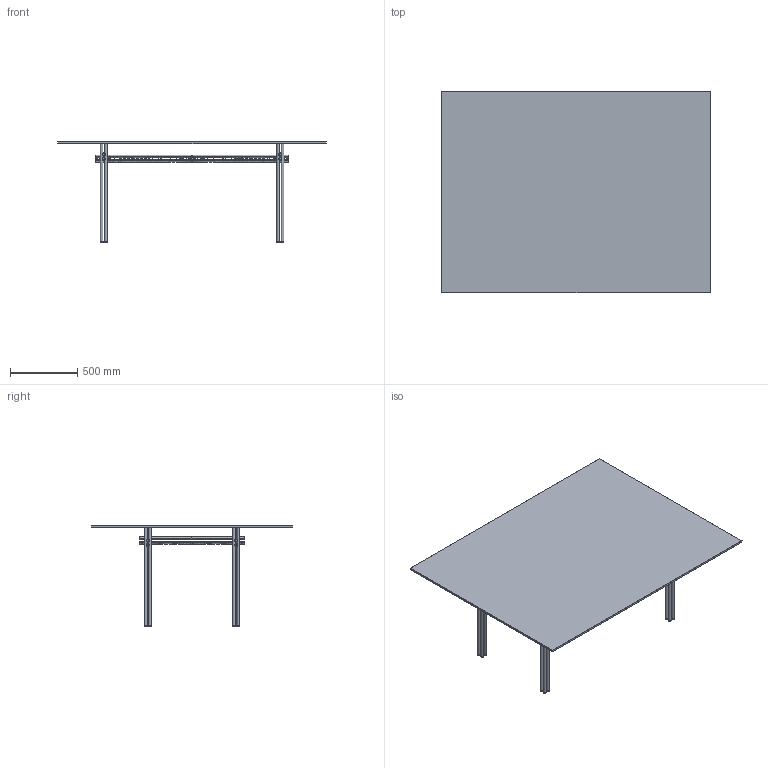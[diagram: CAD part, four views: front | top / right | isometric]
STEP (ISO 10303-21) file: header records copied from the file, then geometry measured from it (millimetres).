
FILE_DESCRIPTION(/* description */ (''),/* implementation_level */ '2;1');
FILE_NAME(/* name */ 'CRISTA~1',/* time_stamp */ '2022-10-18T17:56:38+02:00',/* author */ (''),/* organization */ (''),/* preprocessor_version */ 'ST-DEVELOPER v16.5',/* originating_system */ '',/* authorisation */ '');
FILE_SCHEMA (('AUTOMOTIVE_DESIGN'));
Products named in the file (1): Document
Bounding box: 2000 x 1499.84 x 749.51 mm (x, y, z)
Volume: 48142798.3 mm3; surface area: 8651893.8 mm2
Topology: 63 solids, 63 shells, 482 faces, 14523 edges, 14147 vertices
Faces by surface type: bspline 336, plane 146
Entity records: 324865 total; most frequent: CARTESIAN_POINT 236687, B_SPLINE_CURVE_WITH_KNOTS 14007, COLOUR_RGB 13516, PRESENTATION_STYLE_ASSIGNMENT 13516, STYLED_ITEM 13516, PRESENTATION_LAYER_ASSIGNMENT 13516, CURVE_STYLE 13453, ORIENTED_EDGE 2108
